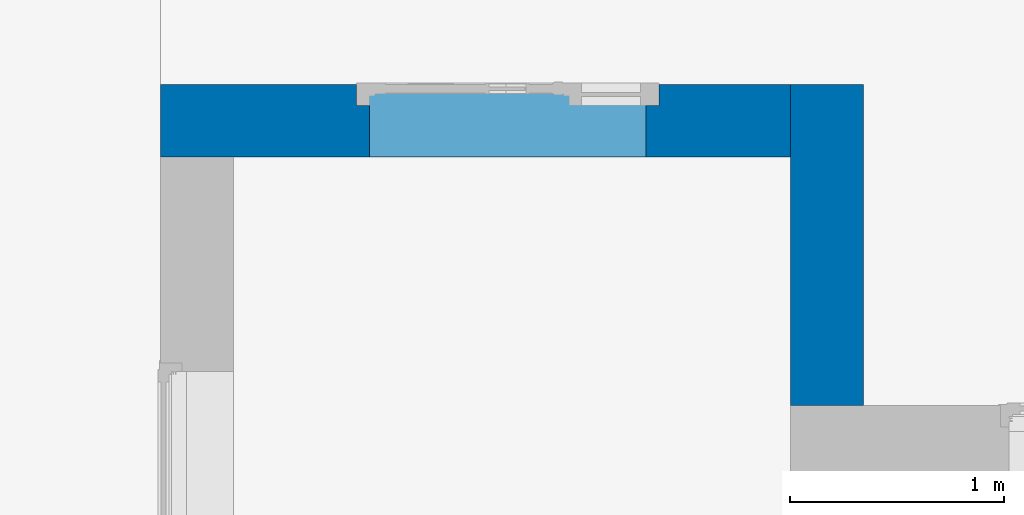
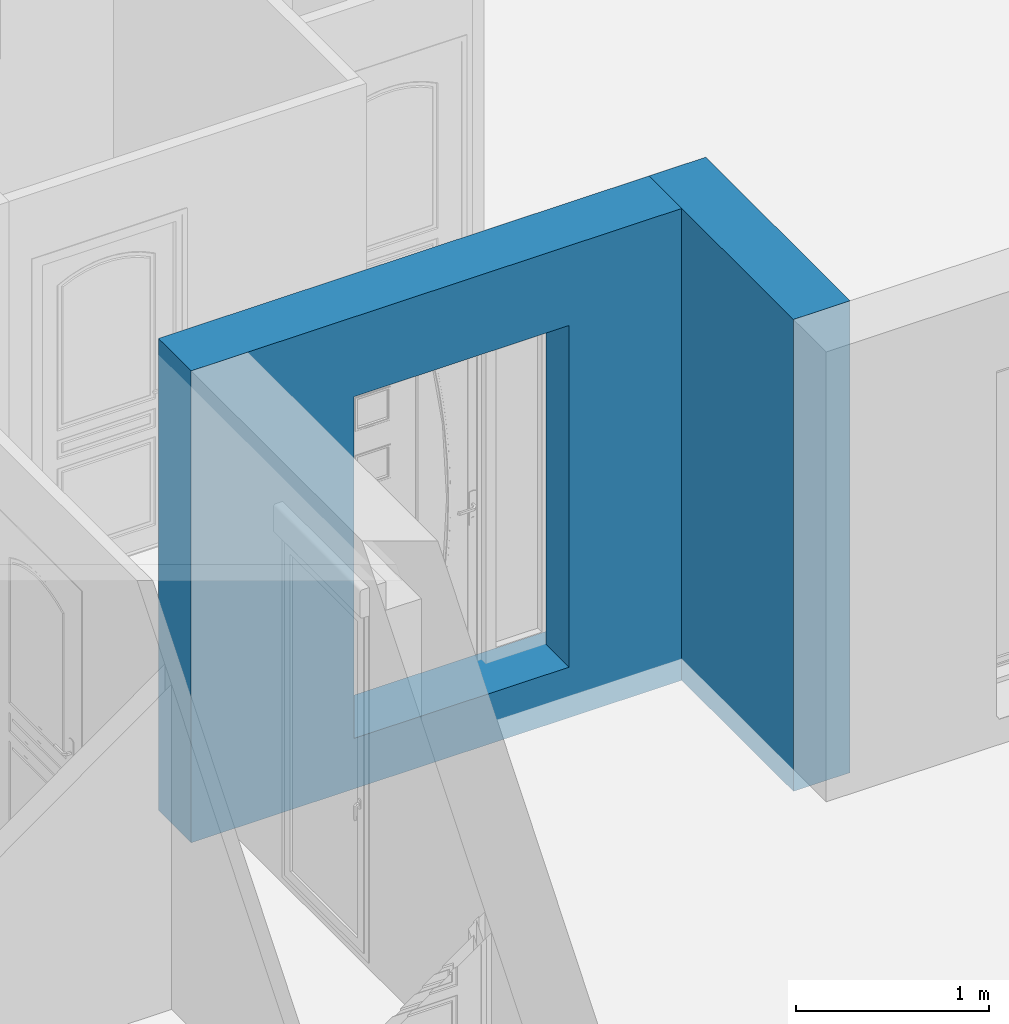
# One storey, part 11 of 23: 2 walls, 1 opening.
"""IFC2X3 building model written with IfcOpenShell, lengths in metres."""

from ifc_helpers import new_model, entity, si_unit, converted_unit, derived_unit, direction, frame, frame_2d, origin, place, context, subcontext, project, spatial, rectangle, extrude, faceted_brep, material, layer, layer_set, layer_usage, type_object, element, save


model = new_model("IFC2X3")

# Units and contexts
model_context = context("Model", 3, precision=1e-05, world=origin(), true_north=direction((6.12303176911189e-17, 1.0)))
body_context = subcontext(model_context, "Body", "Model", "MODEL_VIEW")
ifc_project = project(units=[si_unit("LENGTHUNIT", "METRE"), si_unit("AREAUNIT", "SQUARE_METRE"), si_unit("VOLUMEUNIT", "CUBIC_METRE"), converted_unit("PLANEANGLEUNIT", "DEGREE", entity("IfcRatioMeasure", 0.0174532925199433), si_unit("PLANEANGLEUNIT", "RADIAN"), dimensions=[0, 0, 0, 0, 0, 0, 0]), si_unit("MASSUNIT", "GRAM", prefix="KILO"), derived_unit("MASSDENSITYUNIT", [(si_unit("MASSUNIT", "GRAM", prefix="KILO"), 1), (si_unit("LENGTHUNIT", "METRE"), -3)]), si_unit("TIMEUNIT", "SECOND"), si_unit("FREQUENCYUNIT", "HERTZ"), si_unit("THERMODYNAMICTEMPERATUREUNIT", "DEGREE_CELSIUS"), derived_unit("THERMALTRANSMITTANCEUNIT", [(si_unit("MASSUNIT", "GRAM", prefix="KILO"), 1), (si_unit("THERMODYNAMICTEMPERATUREUNIT", "KELVIN"), -1), (si_unit("TIMEUNIT", "SECOND"), -3)]), derived_unit("VOLUMETRICFLOWRATEUNIT", [(si_unit("LENGTHUNIT", "METRE"), 3), (si_unit("TIMEUNIT", "SECOND"), -1)]), si_unit("ELECTRICCURRENTUNIT", "AMPERE"), si_unit("ELECTRICVOLTAGEUNIT", "VOLT"), si_unit("POWERUNIT", "WATT"), si_unit("FORCEUNIT", "NEWTON", prefix="KILO"), si_unit("ILLUMINANCEUNIT", "LUX"), si_unit("LUMINOUSFLUXUNIT", "LUMEN"), si_unit("LUMINOUSINTENSITYUNIT", "CANDELA"), derived_unit("USERDEFINED", [(si_unit("MASSUNIT", "GRAM", prefix="KILO"), -1), (si_unit("LENGTHUNIT", "METRE"), -2), (si_unit("TIMEUNIT", "SECOND"), 3), (si_unit("LUMINOUSFLUXUNIT", "LUMEN"), 1)]), derived_unit("LINEARVELOCITYUNIT", [(si_unit("LENGTHUNIT", "METRE"), 1), (si_unit("TIMEUNIT", "SECOND"), -1)]), si_unit("PRESSUREUNIT", "PASCAL"), derived_unit("USERDEFINED", [(si_unit("LENGTHUNIT", "METRE"), -2), (si_unit("MASSUNIT", "GRAM", prefix="KILO"), 1), (si_unit("TIMEUNIT", "SECOND"), -2)])], contexts=[model_context])

# Site, building, storey
site_placement = place(None, origin())
site = spatial("IfcSite", under=ifc_project, at=site_placement, Name="Default", CompositionType="ELEMENT")
building_placement = place(site_placement, origin())
building = spatial("IfcBuilding", under=site, at=building_placement, CompositionType="ELEMENT")
storey_placement = place(building_placement, origin())
storey = spatial("IfcBuildingStorey", under=building, at=storey_placement, Name="2 - Rez de Chaussée", CompositionType="ELEMENT", Elevation=-1.94916083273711e-14)

# Wall
ifc_material_1 = material(Name="Maçonnerie - Enduit")
ifc_layer_1 = layer(ifc_material_1, 0.02)
ifc_material_2 = material(Name="Blocs béton manufacturés")
ifc_layer_2 = layer(ifc_material_2, 0.2)
ifc_material_3 = material(Name="TIFE, isolation extérieure")
ifc_layer_3 = layer(ifc_material_3, 0.12)
ifc_layer_set = layer_set([ifc_layer_1, ifc_layer_2, ifc_layer_3], Name="Mur de base:Isolant 10+1 vide 1 Parpaing 20 Enduit 2")
ifc_layer_usage_1 = layer_usage(ifc_layer_set, "AXIS2", "NEGATIVE", 0.17)
wall_type = type_object("IfcWallType", Name="Mur de base:Isolant 10+1 vide 1 Parpaing 20 Enduit 2", PredefinedType="STANDARD", material=ifc_layer_set)
wall_1_placement = place(storey_placement, frame((-1.58622246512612, -0.871944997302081, -0.32), z_axis=(0.0, 0.0, 1.0), x_axis=(0.0, 1.0, 0.0)))
element("IfcWallStandardCase", 1, at=wall_1_placement, inside=storey, type_object=wall_type, material=ifc_layer_usage_1, Name="Mur de base:Isolant 10+1 vide 1 Parpaing 20 Enduit 2", ObjectType="Mur de base:Isolant 10+1 vide 1 Parpaing 20 Enduit 2", context=body_context, shape_type="SweptSolid", body=[
    extrude(rectangle(XDim=1.5, YDim=0.34, at=frame_2d((0.750000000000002, 0.0), x_axis=(-1.0, 0.0))), origin(), (0.0, 0.0, 1.0), 2.99000000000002),
])

# Wall, opening
ifc_layer_usage_2 = layer_usage(ifc_layer_set, "AXIS2", "NEGATIVE", 0.17)
wall_2_placement = place(storey_placement, frame((-1.75622246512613, 0.45805500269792, -0.32), z_axis=(0.0, 0.0, 1.0), x_axis=(-1.0, 0.0, 0.0)))
wall_2 = element("IfcWallStandardCase", 2, at=wall_2_placement, inside=storey, type_object=wall_type, material=ifc_layer_usage_2, Name="Mur de base:Isolant 10+1 vide 1 Parpaing 20 Enduit 2", ObjectType="Mur de base:Isolant 10+1 vide 1 Parpaing 20 Enduit 2", context=body_context, shape_type="SweptSolid", body=[
    extrude(rectangle(XDim=2.93999999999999, YDim=0.34, at=frame_2d((1.46999999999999, -2.77555756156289e-17), x_axis=(-1.0, 0.0))), origin(), (0.0, 0.0, 1.0), 2.99000000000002),
])
opening_placement = place(wall_2_placement, frame((2.02500000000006, 0.499999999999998, 0.32), z_axis=(0.0, 0.0, 1.0), x_axis=(-1.0, 0.0, 0.0)))
element("IfcOpeningElement", 3, at=opening_placement, cuts=wall_2, Name="Mur de base:Isolant 10+1 vide 1 Parpaing 20 Enduit 2", ObjectType="Opening", context=body_context, shape_type="Brep", body=[
    faceted_brep([(1.35, 0.0, 0.0), (1.35, 0.0, 2.16499999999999), (0.0599999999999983, 0.0, 2.16499999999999), (0.0599999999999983, 0.0, 0.0), (1.35, 1.0, 0.0), (0.0600000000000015, 1.0, 0.0), (0.0600000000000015, 1.0, 2.16499999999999), (1.35, 1.0, 2.16499999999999), (0.0599999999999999, 0.569999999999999, 0.0), (0.0, 0.569999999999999, 0.0), (0.0, 0.919999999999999, 0.0), (0.060000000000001, 0.919999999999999, 0.0), (1.35, 0.919999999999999, 0.0), (1.41, 0.919999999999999, 0.0), (1.41, 0.569999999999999, 0.0), (1.35, 0.569999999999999, 0.0), (0.0599999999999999, 0.569999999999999, 2.16499999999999), (1.35, 0.569999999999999, 2.16499999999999), (1.41, 0.919999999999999, 2.225), (1.35, 0.919999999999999, 2.16499999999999), (0.060000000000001, 0.919999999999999, 2.16499999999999), (0.0, 0.919999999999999, 2.225), (1.41, 0.569999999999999, 2.225), (0.0, 0.569999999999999, 2.225)], [[[0, 1, 2, 3]], [[4, 5, 6, 7]], [[0, 3, 8, 9, 10, 11, 5, 4, 12, 13, 14, 15]], [[3, 2, 16, 8]], [[2, 1, 17, 16]], [[1, 0, 15, 17]], [[18, 13, 12, 19, 20, 11, 10, 21]], [[22, 23, 9, 8, 16, 17, 15, 14]], [[18, 21, 23, 22]], [[21, 10, 9, 23]], [[13, 18, 22, 14]], [[4, 7, 19, 12]], [[7, 6, 20, 19]], [[6, 5, 11, 20]]]),
])

save(model, "model.ifc")
